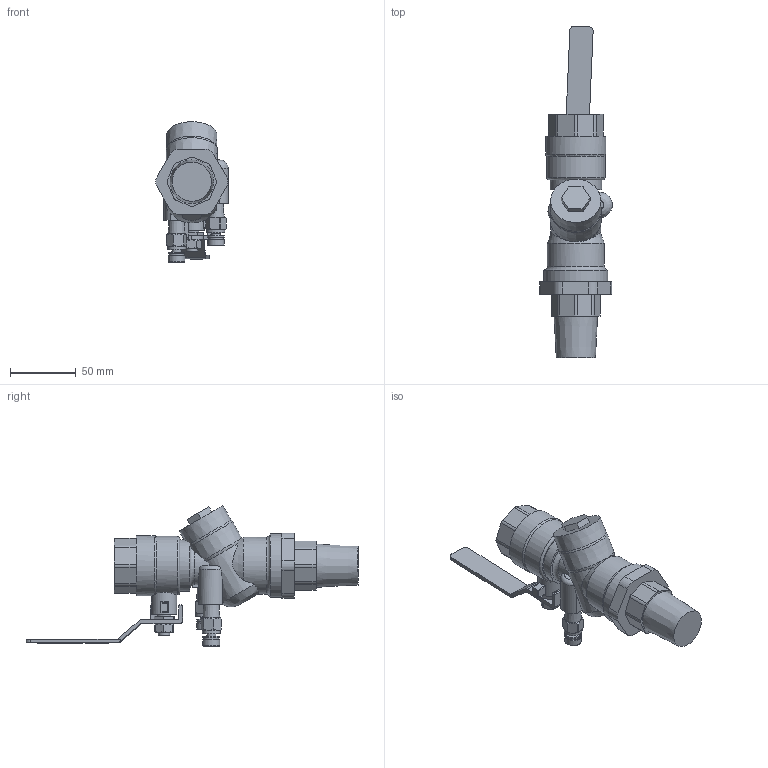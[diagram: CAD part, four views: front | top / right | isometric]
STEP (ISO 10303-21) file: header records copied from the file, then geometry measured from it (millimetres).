
FILE_DESCRIPTION(/* description */ (''),/* implementation_level */ '2;1');
FILE_NAME(/* name */ 'C:\Users\acc1\OneDrive\Desktop\STP and DWG files\AFLI\AFLI3_STEP.stp',/* time_stamp */ '2021-07-22T10:22:20-05:00',/* author */ ('acc1'),/* organization */ (''),/* preprocessor_version */ 'ST-DEVELOPER v18.1',/* originating_system */ 'Autodesk Inventor 2022',/* authorisation */ '');
FILE_SCHEMA (('AUTOMOTIVE_DESIGN { 1 0 10303 214 3 1 1 }'));
Length unit declared in the file: inch
Products named in the file (1): AFLI3_Assembly_Simplify_1
Bounding box: 55.11 x 251.75 x 106.51 mm (x, y, z)
Volume: 303155.6 mm3; surface area: 44774.6 mm2
Topology: 4 solids, 4 shells, 681 faces, 1817 edges, 1189 vertices
Faces by surface type: plane 313, bspline 211, cylinder 100, cone 35, torus 14, sphere 8
Full cylindrical faces by diameter (mm): 6.894 x2, 8.656 x1, 10.82 x1, 11.125 x2, 12.7 x4, 13.716 x2, 19.05 x1, 39.116 x1, 43.18 x1, 44.45 x1, 45.72 x1, 48.26 x1
Entity records: 24206 total; most frequent: CARTESIAN_POINT 8038, ORIENTED_EDGE 3634, DIRECTION 2480, EDGE_CURVE 1817, VERTEX_POINT 1189, LINE 964, VECTOR 964, AXIS2_PLACEMENT_3D 758
